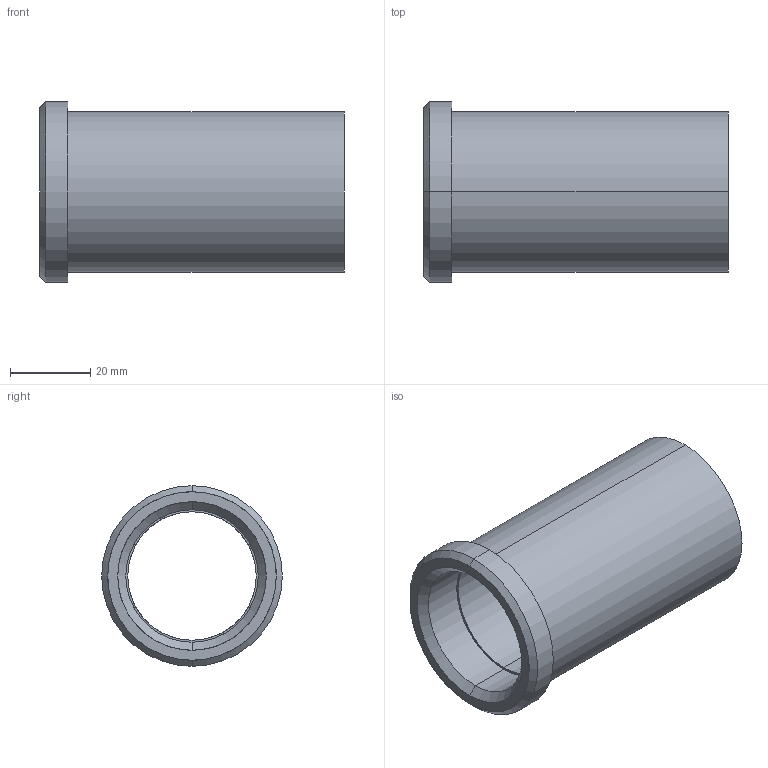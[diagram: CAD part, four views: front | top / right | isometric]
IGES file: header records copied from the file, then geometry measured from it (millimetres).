
Start section: START RECORD GO HERE.
Global section: file name: 353-32X76.igs; native system: DASSAULT SYSTEMES CATIA V5 R20 - www.3ds.com; preprocessor: CATIA Version 5 Release 20 ; author: Utente; organization: NB04-ASUS; date: 20210512.205435; units: millimetre
Bounding box: 76 x 45 x 45 mm (x, y, z)
Surface area: 18582.9 mm2 (no closed solid volume)
Topology: 0 solids, 0 shells, 18 faces, 116 edges, 116 vertices
Faces by surface type: revolution 14, plane 4
